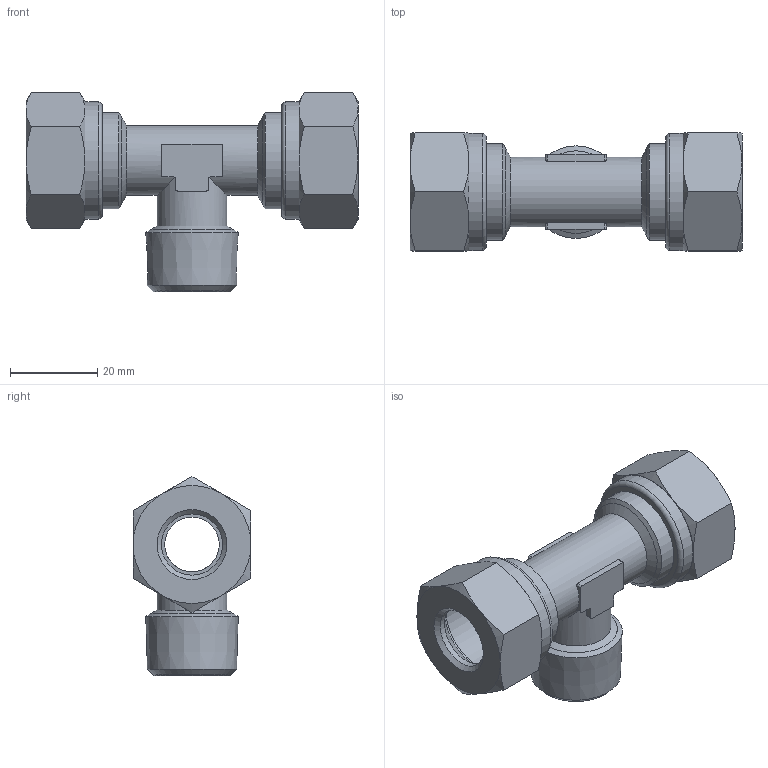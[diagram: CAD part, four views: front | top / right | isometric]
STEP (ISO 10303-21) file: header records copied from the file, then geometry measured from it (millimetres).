
FILE_DESCRIPTION(('Bauteilbeschreibung','HiCAD-Model','HiCAD-STEP-TRANSLATION','Bauteilbeschreibung'),'2;1');
FILE_NAME('B:/ABGLEICH/ZEICHNUNGEN/STEP FÜR INTERNET/STEP/207/92221_207_14_1-2.STP','2012-01-31T10:23:40+00:00',('Konstrukteur'),('Konstrukteur Firma GmbH'),' HiCAD neXt 2008, Step 3.1.1401.2J ','HiCAD neXt 2008','confidential');
FILE_SCHEMA(('AUTOMOTIVE_DESIGN { 1 2 10303 214 0 1 1 1 }'));
Length unit declared in the file: millimetre
Products named in the file (12): A2221_207_14_1_2; A2221; A22210; DIN 13_M22X1_5; DIN0130M22X105; R 1_2; A6806; A68060; DIN0130M22X1050; A68061; A68062; DIN0130M22X1051
Assembly tree (11 placements, depth 3):
  A2221_207_14_1_2
    A2221
    A22210
      DIN 13_M22X1_5
      DIN0130M22X105
      R 1_2
    A6806
    A68060
      DIN0130M22X1050
    A68061
    A68062
      DIN0130M22X1051
Bounding box: 76 x 27 x 45.59 mm (x, y, z)
Volume: 21278.1 mm3; surface area: 21958.9 mm2
Topology: 8 solids, 8 shells, 139 faces, 326 edges, 201 vertices
Faces by surface type: cone 51, plane 45, cylinder 41, torus 2
Full cylindrical faces by diameter (mm): 12 x1, 12.5 x1, 14 x4, 15 x1, 16 x2, 20.16 x8, 22 x6, 26.8 x2
Entity records: 8385 total; most frequent: CARTESIAN_POINT 4127, DIRECTION 620, ORIENTED_EDGE 506, AXIS2_PLACEMENT_3D 275, EDGE_CURVE 253, COLOUR_RGB 240, PRESENTATION_STYLE_ASSIGNMENT 240, CURVE_STYLE 232
